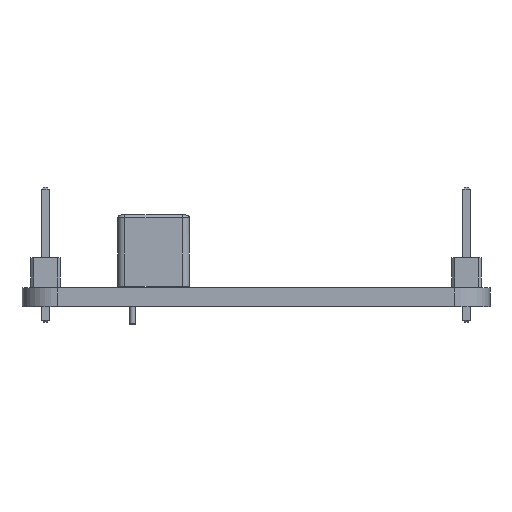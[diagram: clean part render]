
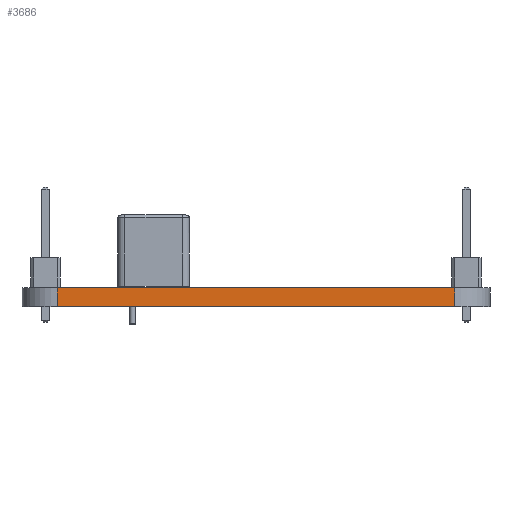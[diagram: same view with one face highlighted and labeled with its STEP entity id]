
A CAD part, front view. The second image highlights one B-rep face of the part: STEP entity #3686.
In plain terms, the highlighted planar face has unit normal (0, -1, 0).
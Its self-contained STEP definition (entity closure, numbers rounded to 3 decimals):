
#3568 = EDGE_CURVE('',#3569,#3571,#3573,.T.);
#3569 = VERTEX_POINT('',#3570);
#3570 = CARTESIAN_POINT('',(37.,0.,0.));
#3571 = VERTEX_POINT('',#3572);
#3572 = CARTESIAN_POINT('',(37.,0.,1.6));
#3573 = SURFACE_CURVE('',#3574,(#3578,#3590),.PCURVE_S1.);
#3574 = LINE('',#3575,#3576);
#3575 = CARTESIAN_POINT('',(37.,0.,0.));
#3576 = VECTOR('',#3577,1.);
#3577 = DIRECTION('',(0.,0.,1.));
#3578 = PCURVE('',#3579,#3584);
#3579 = CYLINDRICAL_SURFACE('',#3580,3.);
#3580 = AXIS2_PLACEMENT_3D('',#3581,#3582,#3583);
#3581 = CARTESIAN_POINT('',(37.,3.,0.));
#3582 = DIRECTION('',(-0.,-0.,-1.));
#3583 = DIRECTION('',(1.,0.,-0.));
#3584 = DEFINITIONAL_REPRESENTATION('',(#3585),#3589);
#3585 = LINE('',#3586,#3587);
#3586 = CARTESIAN_POINT('',(-4.712,0.));
#3587 = VECTOR('',#3588,1.);
#3588 = DIRECTION('',(-0.,-1.));
#3589 = ( GEOMETRIC_REPRESENTATION_CONTEXT(2) 
PARAMETRIC_REPRESENTATION_CONTEXT() REPRESENTATION_CONTEXT('2D SPACE',''
  ) );
#3590 = PCURVE('',#3591,#3596);
#3591 = PLANE('',#3592);
#3592 = AXIS2_PLACEMENT_3D('',#3593,#3594,#3595);
#3593 = CARTESIAN_POINT('',(37.,0.,0.));
#3594 = DIRECTION('',(0.,-1.,0.));
#3595 = DIRECTION('',(-1.,0.,0.));
#3596 = DEFINITIONAL_REPRESENTATION('',(#3597),#3601);
#3597 = LINE('',#3598,#3599);
#3598 = CARTESIAN_POINT('',(0.,0.));
#3599 = VECTOR('',#3600,1.);
#3600 = DIRECTION('',(0.,-1.));
#3601 = ( GEOMETRIC_REPRESENTATION_CONTEXT(2) 
PARAMETRIC_REPRESENTATION_CONTEXT() REPRESENTATION_CONTEXT('2D SPACE',''
  ) );
#3620 = PLANE('',#3621);
#3621 = AXIS2_PLACEMENT_3D('',#3622,#3623,#3624);
#3622 = CARTESIAN_POINT('',(20.,40.,1.6));
#3623 = DIRECTION('',(0.,0.,1.));
#3624 = DIRECTION('',(1.,0.,-0.));
#3675 = PLANE('',#3676);
#3676 = AXIS2_PLACEMENT_3D('',#3677,#3678,#3679);
#3677 = CARTESIAN_POINT('',(20.,40.,0.));
#3678 = DIRECTION('',(0.,0.,1.));
#3679 = DIRECTION('',(1.,0.,-0.));
#3686 = ADVANCED_FACE('',(#3687),#3591,.T.);
#3687 = FACE_BOUND('',#3688,.T.);
#3688 = EDGE_LOOP('',(#3689,#3690,#3713,#3741));
#3689 = ORIENTED_EDGE('',*,*,#3568,.T.);
#3690 = ORIENTED_EDGE('',*,*,#3691,.T.);
#3691 = EDGE_CURVE('',#3571,#3692,#3694,.T.);
#3692 = VERTEX_POINT('',#3693);
#3693 = CARTESIAN_POINT('',(3.,0.,1.6));
#3694 = SURFACE_CURVE('',#3695,(#3699,#3706),.PCURVE_S1.);
#3695 = LINE('',#3696,#3697);
#3696 = CARTESIAN_POINT('',(37.,0.,1.6));
#3697 = VECTOR('',#3698,1.);
#3698 = DIRECTION('',(-1.,0.,0.));
#3699 = PCURVE('',#3591,#3700);
#3700 = DEFINITIONAL_REPRESENTATION('',(#3701),#3705);
#3701 = LINE('',#3702,#3703);
#3702 = CARTESIAN_POINT('',(0.,-1.6));
#3703 = VECTOR('',#3704,1.);
#3704 = DIRECTION('',(1.,0.));
#3705 = ( GEOMETRIC_REPRESENTATION_CONTEXT(2) 
PARAMETRIC_REPRESENTATION_CONTEXT() REPRESENTATION_CONTEXT('2D SPACE',''
  ) );
#3706 = PCURVE('',#3620,#3707);
#3707 = DEFINITIONAL_REPRESENTATION('',(#3708),#3712);
#3708 = LINE('',#3709,#3710);
#3709 = CARTESIAN_POINT('',(17.,-40.));
#3710 = VECTOR('',#3711,1.);
#3711 = DIRECTION('',(-1.,0.));
#3712 = ( GEOMETRIC_REPRESENTATION_CONTEXT(2) 
PARAMETRIC_REPRESENTATION_CONTEXT() REPRESENTATION_CONTEXT('2D SPACE',''
  ) );
#3713 = ORIENTED_EDGE('',*,*,#3714,.F.);
#3714 = EDGE_CURVE('',#3715,#3692,#3717,.T.);
#3715 = VERTEX_POINT('',#3716);
#3716 = CARTESIAN_POINT('',(3.,-0.,0.));
#3717 = SURFACE_CURVE('',#3718,(#3722,#3729),.PCURVE_S1.);
#3718 = LINE('',#3719,#3720);
#3719 = CARTESIAN_POINT('',(3.,-0.,0.));
#3720 = VECTOR('',#3721,1.);
#3721 = DIRECTION('',(0.,0.,1.));
#3722 = PCURVE('',#3591,#3723);
#3723 = DEFINITIONAL_REPRESENTATION('',(#3724),#3728);
#3724 = LINE('',#3725,#3726);
#3725 = CARTESIAN_POINT('',(34.,0.));
#3726 = VECTOR('',#3727,1.);
#3727 = DIRECTION('',(0.,-1.));
#3728 = ( GEOMETRIC_REPRESENTATION_CONTEXT(2) 
PARAMETRIC_REPRESENTATION_CONTEXT() REPRESENTATION_CONTEXT('2D SPACE',''
  ) );
#3729 = PCURVE('',#3730,#3735);
#3730 = CYLINDRICAL_SURFACE('',#3731,3.);
#3731 = AXIS2_PLACEMENT_3D('',#3732,#3733,#3734);
#3732 = CARTESIAN_POINT('',(3.,3.,0.));
#3733 = DIRECTION('',(-0.,-0.,-1.));
#3734 = DIRECTION('',(1.,0.,-0.));
#3735 = DEFINITIONAL_REPRESENTATION('',(#3736),#3740);
#3736 = LINE('',#3737,#3738);
#3737 = CARTESIAN_POINT('',(-4.712,0.));
#3738 = VECTOR('',#3739,1.);
#3739 = DIRECTION('',(-0.,-1.));
#3740 = ( GEOMETRIC_REPRESENTATION_CONTEXT(2) 
PARAMETRIC_REPRESENTATION_CONTEXT() REPRESENTATION_CONTEXT('2D SPACE',''
  ) );
#3741 = ORIENTED_EDGE('',*,*,#3742,.F.);
#3742 = EDGE_CURVE('',#3569,#3715,#3743,.T.);
#3743 = SURFACE_CURVE('',#3744,(#3748,#3755),.PCURVE_S1.);
#3744 = LINE('',#3745,#3746);
#3745 = CARTESIAN_POINT('',(37.,0.,0.));
#3746 = VECTOR('',#3747,1.);
#3747 = DIRECTION('',(-1.,0.,0.));
#3748 = PCURVE('',#3591,#3749);
#3749 = DEFINITIONAL_REPRESENTATION('',(#3750),#3754);
#3750 = LINE('',#3751,#3752);
#3751 = CARTESIAN_POINT('',(0.,0.));
#3752 = VECTOR('',#3753,1.);
#3753 = DIRECTION('',(1.,0.));
#3754 = ( GEOMETRIC_REPRESENTATION_CONTEXT(2) 
PARAMETRIC_REPRESENTATION_CONTEXT() REPRESENTATION_CONTEXT('2D SPACE',''
  ) );
#3755 = PCURVE('',#3675,#3756);
#3756 = DEFINITIONAL_REPRESENTATION('',(#3757),#3761);
#3757 = LINE('',#3758,#3759);
#3758 = CARTESIAN_POINT('',(17.,-40.));
#3759 = VECTOR('',#3760,1.);
#3760 = DIRECTION('',(-1.,0.));
#3761 = ( GEOMETRIC_REPRESENTATION_CONTEXT(2) 
PARAMETRIC_REPRESENTATION_CONTEXT() REPRESENTATION_CONTEXT('2D SPACE',''
  ) );
